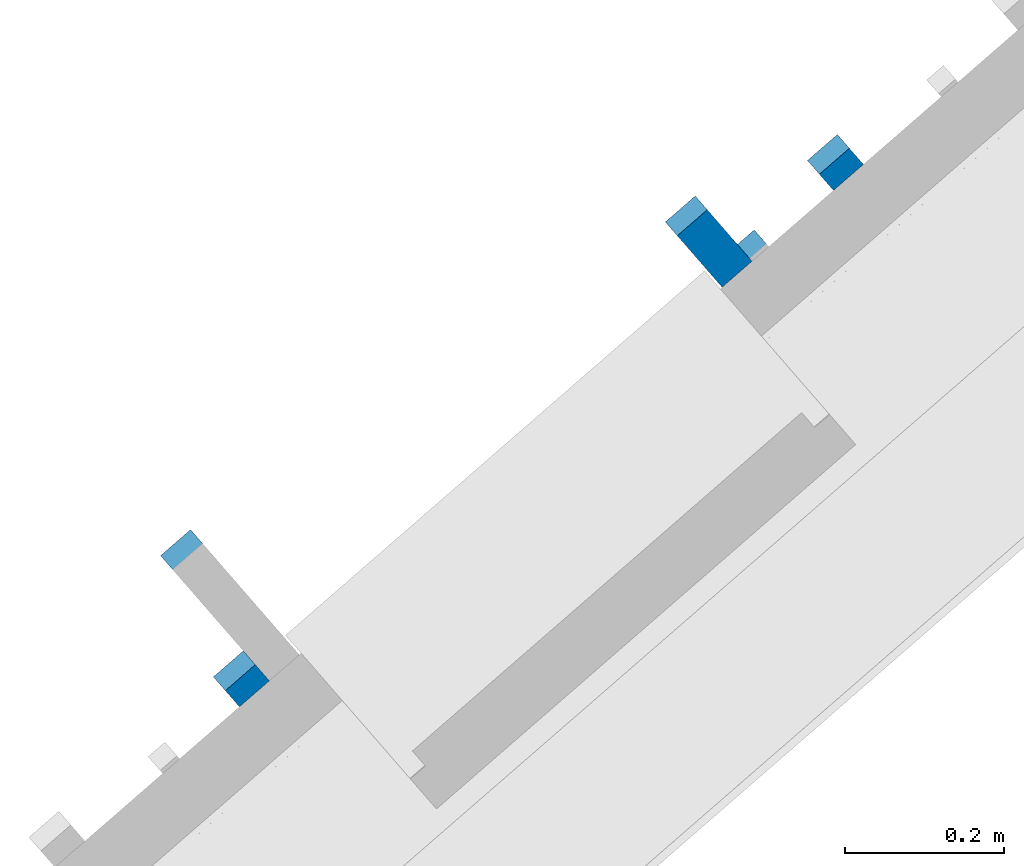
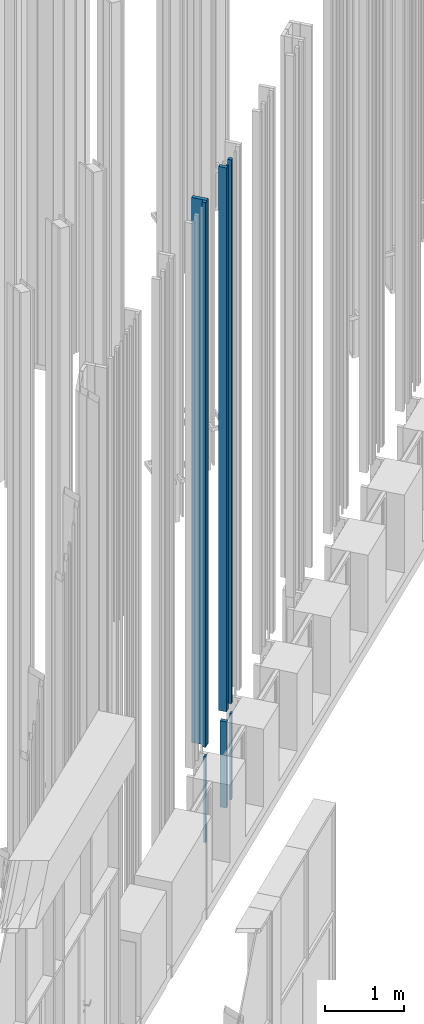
# One storey, part 229 of 390: 8 walls.
"""IFC2X3 building model written with IfcOpenShell, lengths in millimetres."""

from ifc_helpers import new_model, entity, si_unit, converted_unit, derived_unit, money_unit, direction, frame, origin_with_axes, place, context, subcontext, project, spatial, faceted_brep, material, type_object, element, save


model = new_model("IFC2X3")

# Units and contexts
model_context = context("Model", 3, precision=1e-05, world=origin_with_axes(), true_north=direction((0.0, 1.0)))
body_context = subcontext(model_context, "Body", "Model", "MODEL_VIEW")
ifc_project = project(units=[si_unit("LENGTHUNIT", "METRE", prefix="MILLI"), si_unit("AREAUNIT", "SQUARE_METRE"), si_unit("VOLUMEUNIT", "CUBIC_METRE"), converted_unit("PLANEANGLEUNIT", "DEGREE", entity("IfcPlaneAngleMeasure", 0.0174532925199), si_unit("PLANEANGLEUNIT", "RADIAN"), dimensions=[0, 0, 0, 0, 0, 0, 0]), si_unit("SOLIDANGLEUNIT", "STERADIAN"), money_unit("EUR"), converted_unit("TIMEUNIT", "Year", entity("IfcTimeMeasure", 31556926.0), si_unit("TIMEUNIT", "SECOND"), dimensions=[0, 0, 1, 0, 0, 0, 0]), si_unit("MASSUNIT", "GRAM", prefix="KILO"), si_unit("THERMODYNAMICTEMPERATUREUNIT", "DEGREE_CELSIUS"), si_unit("LUMINOUSINTENSITYUNIT", "LUMEN"), si_unit("ENERGYUNIT", "JOULE", prefix="MEGA"), derived_unit("THERMALCONDUCTANCEUNIT", [(si_unit("POWERUNIT", "WATT"), 1), (si_unit("LENGTHUNIT", "METRE"), -1), (si_unit("THERMODYNAMICTEMPERATUREUNIT", "KELVIN"), -1)]), derived_unit("SPECIFICHEATCAPACITYUNIT", [(si_unit("ENERGYUNIT", "JOULE"), 1), (si_unit("MASSUNIT", "GRAM", prefix="KILO"), -1), (si_unit("THERMODYNAMICTEMPERATUREUNIT", "KELVIN"), -1)]), derived_unit("MASSDENSITYUNIT", [(si_unit("MASSUNIT", "GRAM", prefix="KILO"), 1), (si_unit("VOLUMEUNIT", "CUBIC_METRE"), -1)])], contexts=[model_context])

# Site, building, storey
site_placement = place(None, origin_with_axes())
site = spatial("IfcSite", under=ifc_project, at=site_placement, Name="Site", CompositionType="ELEMENT")
building_placement = place(site_placement, origin_with_axes())
building = spatial("IfcBuilding", under=site, at=building_placement, Name="Building", CompositionType="ELEMENT")
storey_placement = place(building_placement, origin_with_axes())
storey = spatial("IfcBuildingStorey", under=building, at=storey_placement, Name="1 korrus", CompositionType="ELEMENT", Elevation=0.0)

# Walls
ifc_material = material(Name="Site specified")
wall_type = type_object("IfcWallType", Name="Puitfassaadi ribistik", PredefinedType="NOTDEFINED")
wall_1_placement = place(storey_placement, frame((139396.376127, 91317.1753878, 1468.07770651), z_axis=(0.0, 0.0, 1.0), x_axis=(0.754709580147, 0.656059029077, 0.0)))
element("IfcWall", 1, at=wall_1_placement, inside=storey, type_object=wall_type, material=ifc_material, Name="Site specified", context=body_context, shape_type="Brep", body=[
    faceted_brep([(25.0, 104.5, 8396.92229349), (25.0, 104.5, 0.0), (-25.0, 104.5, 0.0), (-25.0, 104.5, 8396.92229349), (25.0, -104.5, 8396.92229349), (25.0, -104.5, 0.0), (-25.0, -104.5, 0.0), (-25.0, -104.5, 8396.92229349)], [[[0, 1, 2, 3]], [[4, 5, 1, 0]], [[2, 1, 5, 6]], [[3, 2, 6, 7]], [[4, 0, 3, 7]], [[7, 6, 5, 4]]]),
])
wall_2_placement = place(storey_placement, frame((140159.469242, 91875.1835791, 1484.19259749), z_axis=(0.0, 0.0, 1.0), x_axis=(0.754709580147, 0.656059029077, 0.0)))
element("IfcWall", 2, at=wall_2_placement, inside=storey, type_object=wall_type, material=ifc_material, Name="Site specified", context=body_context, shape_type="Brep", body=[
    faceted_brep([(25.0, 25.0, 8380.80740251), (25.0, 25.0, 0.0), (-25.0, 25.0, 0.0), (-25.0, 25.0, 8380.80740251), (25.0, -25.0, 8380.80740251), (25.0, -25.0, 0.0), (-25.0, -25.0, 0.0), (-25.0, -25.0, 8380.80740251)], [[[0, 1, 2, 3]], [[4, 5, 1, 0]], [[2, 1, 5, 6]], [[3, 2, 6, 7]], [[4, 0, 3, 7]], [[7, 6, 5, 4]]]),
])
wall_3_placement = place(storey_placement, frame((140055.743583, 91770.4410965, 1484.19259749), z_axis=(0.0, 0.0, 1.0), x_axis=(0.754709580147, 0.656059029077, 0.0)))
element("IfcWall", 3, at=wall_3_placement, inside=storey, type_object=wall_type, material=ifc_material, Name="Site specified", context=body_context, shape_type="Brep", body=[
    faceted_brep([(14.0, 14.0, 8380.80740251), (14.0, 14.0, 0.0), (-14.0, 14.0, 0.0), (-14.0, 14.0, 8380.80740251), (14.0, -14.0, 8380.80740251), (14.0, -14.0, 0.0), (-14.0, -14.0, 0.0), (-14.0, -14.0, 8380.80740251)], [[[0, 1, 2, 3]], [[4, 5, 1, 0]], [[2, 1, 5, 6]], [[3, 2, 6, 7]], [[4, 0, 3, 7]], [[7, 6, 5, 4]]]),
])
wall_4_placement = place(storey_placement, frame((139410.797341, 91224.3730248, 1468.07770651), z_axis=(0.0, 0.0, 1.0), x_axis=(0.754709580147, 0.656059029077, 0.0)))
element("IfcWall", 4, at=wall_4_placement, inside=storey, type_object=wall_type, material=ifc_material, Name="Site specified", context=body_context, shape_type="Brep", body=[
    faceted_brep([(25.0, 25.0, 8396.92229349), (25.0, 25.0, 0.0), (-25.0, 25.0, 0.0), (-25.0, 25.0, 8396.92229349), (25.0, -25.0, 8396.92229349), (25.0, -25.0, 0.0), (-25.0, -25.0, 0.0), (-25.0, -25.0, 8396.92229349)], [[[0, 1, 2, 3]], [[4, 5, 1, 0]], [[2, 1, 5, 6]], [[3, 2, 6, 7]], [[4, 0, 3, 7]], [[7, 6, 5, 4]]]),
])
wall_5_placement = place(storey_placement, frame((139999.739519, 91775.4205323, 1484.19259749), z_axis=(0.0, 0.0, 1.0), x_axis=(0.754709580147, 0.656059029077, 0.0)))
element("IfcWall", 5, at=wall_5_placement, inside=storey, type_object=wall_type, material=ifc_material, Name="Site specified", context=body_context, shape_type="Brep", body=[
    faceted_brep([(25.0, 54.5, 8380.80740251), (25.0, 54.5, 0.0), (-25.0, 54.5, 0.0), (-25.0, 54.5, 8380.80740251), (25.0, -54.5, 8380.80740251), (25.0, -54.5, 0.0), (-25.0, -54.5, 0.0), (-25.0, -54.5, 8380.80740251)], [[[0, 1, 2, 3]], [[4, 5, 1, 0]], [[2, 1, 5, 6]], [[3, 2, 6, 7]], [[4, 0, 3, 7]], [[7, 6, 5, 4]]]),
])
wall_6_placement = place(storey_placement, frame((140014.828876, 91758.0622117, 0.0), z_axis=(0.0, 0.0, 1.0), x_axis=(0.754709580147, 0.656059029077, 0.0)))
element("IfcWall", 6, at=wall_6_placement, inside=storey, type_object=wall_type, material=ifc_material, Name="Site specified", context=body_context, shape_type="Brep", body=[
    faceted_brep([(-25.0, 54.5, 1330.0), (-25.0, -31.5085641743, 1330.0), (25.0000000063, -31.5086825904, 1330.0), (25.0, 54.5, 1330.0), (-25.0, 54.5, 0.0), (-25.0, -31.5112593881, 0.0), (25.0, -31.5113725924, 0.0), (25.0, 54.5, 0.0)], [[[0, 1, 2, 3]], [[4, 5, 1, 0]], [[5, 6, 2, 1]], [[3, 2, 6, 7]], [[0, 3, 7, 4]], [[7, 6, 5, 4]]]),
])
wall_7_placement = place(storey_placement, frame((139425.886699, 91207.0147041, 0.0), z_axis=(0.0, 0.0, 1.0), x_axis=(0.754709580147, 0.656059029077, 0.0)))
element("IfcWall", 7, at=wall_7_placement, inside=storey, type_object=wall_type, material=ifc_material, Name="Site specified", context=body_context, shape_type="Brep", body=[
    faceted_brep([(-25.0, 25.0, 1330.0), (-25.0, -2.00665529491, 1330.0), (25.0000000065, -2.00677371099, 1330.0), (25.0, 25.0, 1330.0), (-25.0, 25.0, 0.0), (-25.0, -2.00943452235, 0.0), (25.0, -2.00954772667, 0.0), (25.0, 25.0, 0.0)], [[[0, 1, 2, 3]], [[4, 5, 1, 0]], [[5, 6, 2, 1]], [[3, 2, 6, 7]], [[0, 3, 7, 4]], [[7, 6, 5, 4]]]),
])
wall_8_placement = place(storey_placement, frame((140174.558599, 91857.8252585, 0.0), z_axis=(0.0, 0.0, 1.0), x_axis=(0.754709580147, 0.656059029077, 0.0)))
element("IfcWall", 8, at=wall_8_placement, inside=storey, type_object=wall_type, material=ifc_material, Name="Site specified", context=body_context, shape_type="Brep", body=[
    faceted_brep([(-25.0, 25.0, 1330.0), (-25.0, -2.0090046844, 1330.0), (25.0000000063, -2.00912310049, 1330.0), (25.0, 25.0, 1330.0), (-25.0, 25.0, 0.0), (-25.0, -2.01168051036, 0.0), (25.0, -2.01179371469, 0.0), (25.0, 25.0, 0.0)], [[[0, 1, 2, 3]], [[4, 5, 1, 0]], [[5, 6, 2, 1]], [[3, 2, 6, 7]], [[0, 3, 7, 4]], [[7, 6, 5, 4]]]),
])

save(model, "model.ifc")
